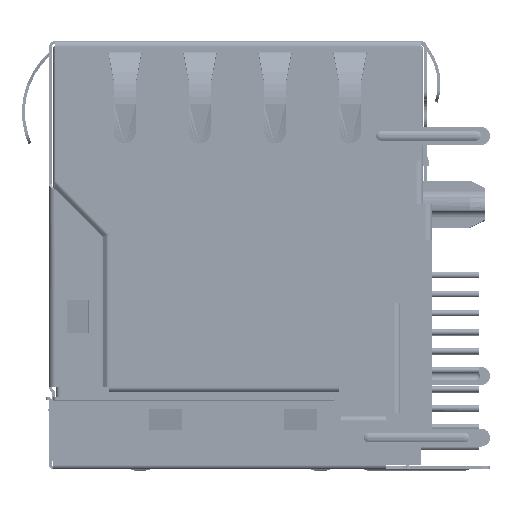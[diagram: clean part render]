
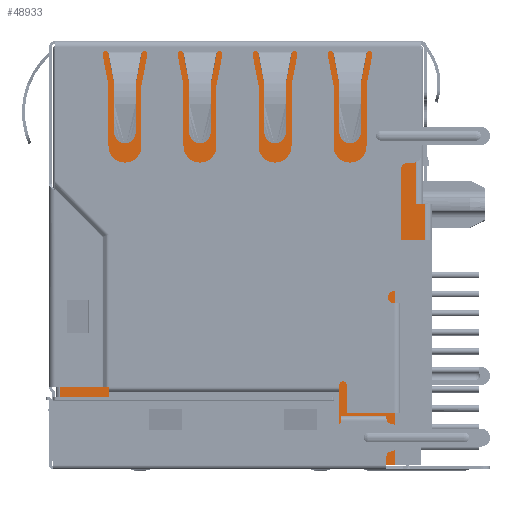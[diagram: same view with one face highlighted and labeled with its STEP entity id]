
A CAD part, left-side view. The second image highlights one B-rep face of the part: STEP entity #48933.
In plain terms, the highlighted planar face has unit normal (-1, 0, 0).
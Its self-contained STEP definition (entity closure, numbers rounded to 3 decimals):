
#1548=DIRECTION('',(0.,1.,0.));
#1549=VECTOR('',#1548,23.9);
#1550=CARTESIAN_POINT('',(-43.29,-24.2,-0.3));
#1551=LINE('',#1550,#1549);
#1560=DIRECTION('',(0.,0.,-1.));
#1561=VECTOR('',#1560,10.);
#1562=CARTESIAN_POINT('',(-43.29,-0.5,-18.));
#1563=LINE('',#1562,#1561);
#1569=DIRECTION('',(0.,-1.,0.));
#1570=VECTOR('',#1569,22.345);
#1571=CARTESIAN_POINT('',(-43.29,-0.5,-28.));
#1572=LINE('',#1571,#1570);
#1581=DIRECTION('',(0.,0.,1.));
#1582=VECTOR('',#1581,15.);
#1583=CARTESIAN_POINT('',(-43.29,-22.845,-28.));
#1584=LINE('',#1583,#1582);
#1609=DIRECTION('',(0.,-1.,0.));
#1610=VECTOR('',#1609,1.955);
#1611=CARTESIAN_POINT('',(-43.29,-22.845,-13.));
#1612=LINE('',#1611,#1610);
#1622=DIRECTION('',(0.,0.,1.));
#1623=VECTOR('',#1622,2.36);
#1624=CARTESIAN_POINT('',(-43.29,-24.8,-13.));
#1625=LINE('',#1624,#1623);
#1635=DIRECTION('',(0.,-1.,0.));
#1636=VECTOR('',#1635,0.6);
#1637=CARTESIAN_POINT('',(-43.29,-24.2,-10.64));
#1638=LINE('',#1637,#1636);
#4739=DIRECTION('',(0.,-1.,0.));
#4740=VECTOR('',#4739,0.2);
#4741=CARTESIAN_POINT('',(-43.29,-0.3,-18.));
#4742=LINE('',#4741,#4740);
#4846=DIRECTION('',(0.,0.,-1.));
#4847=VECTOR('',#4846,17.7);
#4848=CARTESIAN_POINT('',(-43.29,-0.3,-0.3));
#4849=LINE('',#4848,#4847);
#12520=DIRECTION('',(0.,0.,1.));
#12521=VECTOR('',#12520,10.34);
#12522=CARTESIAN_POINT('',(-43.29,-24.2,-10.64));
#12523=LINE('',#12522,#12521);
#35176=CARTESIAN_POINT('',(-43.29,-24.2,-0.3));
#35177=VERTEX_POINT('',#35176);
#35252=CARTESIAN_POINT('',(-43.29,-22.845,-28.));
#35253=VERTEX_POINT('',#35252);
#36515=CARTESIAN_POINT('',(-43.29,-24.2,-10.64));
#36516=VERTEX_POINT('',#36515);
#36521=CARTESIAN_POINT('',(-43.29,-24.8,-10.64));
#36522=VERTEX_POINT('',#36521);
#36708=CARTESIAN_POINT('',(-43.29,-22.845,-13.));
#36709=VERTEX_POINT('',#36708);
#36710=CARTESIAN_POINT('',(-43.29,-24.8,-13.));
#36711=VERTEX_POINT('',#36710);
#39543=CARTESIAN_POINT('',(-43.29,-0.5,-18.));
#39544=CARTESIAN_POINT('',(-43.29,-0.5,-28.));
#39545=VERTEX_POINT('',#39543);
#39546=VERTEX_POINT('',#39544);
#39547=CARTESIAN_POINT('',(-43.29,-0.3,-0.3));
#39548=CARTESIAN_POINT('',(-43.29,-0.3,-18.));
#39549=VERTEX_POINT('',#39547);
#39550=VERTEX_POINT('',#39548);
#48907=CARTESIAN_POINT('',(-43.29,-12.55,-14.15));
#48908=DIRECTION('',(1.,0.,0.));
#48909=DIRECTION('',(0.,-1.,0.));
#48910=AXIS2_PLACEMENT_3D('',#48907,#48908,#48909);
#48911=PLANE('',#48910);
#48913=ORIENTED_EDGE('',*,*,#48912,.F.);
#48915=ORIENTED_EDGE('',*,*,#48914,.F.);
#48917=ORIENTED_EDGE('',*,*,#48916,.F.);
#48918=ORIENTED_EDGE('',*,*,#48897,.F.);
#48920=ORIENTED_EDGE('',*,*,#48919,.F.);
#48922=ORIENTED_EDGE('',*,*,#48921,.T.);
#48924=ORIENTED_EDGE('',*,*,#48923,.F.);
#48926=ORIENTED_EDGE('',*,*,#48925,.F.);
#48928=ORIENTED_EDGE('',*,*,#48927,.F.);
#48930=ORIENTED_EDGE('',*,*,#48929,.F.);
#48931=EDGE_LOOP('',(#48913,#48915,#48917,#48918,#48920,#48922,#48924,#48926,
#48928,#48930));
#48932=FACE_OUTER_BOUND('',#48931,.F.);
#48933=ADVANCED_FACE('',(#48932),#48911,.F.);
#48897=EDGE_CURVE('',#35177,#39549,#1551,.T.);
#48912=EDGE_CURVE('',#39545,#39546,#1563,.T.);
#48914=EDGE_CURVE('',#39550,#39545,#4742,.T.);
#48916=EDGE_CURVE('',#39549,#39550,#4849,.T.);
#48919=EDGE_CURVE('',#36516,#35177,#12523,.T.);
#48921=EDGE_CURVE('',#36516,#36522,#1638,.T.);
#48923=EDGE_CURVE('',#36711,#36522,#1625,.T.);
#48925=EDGE_CURVE('',#36709,#36711,#1612,.T.);
#48927=EDGE_CURVE('',#35253,#36709,#1584,.T.);
#48929=EDGE_CURVE('',#39546,#35253,#1572,.T.);
